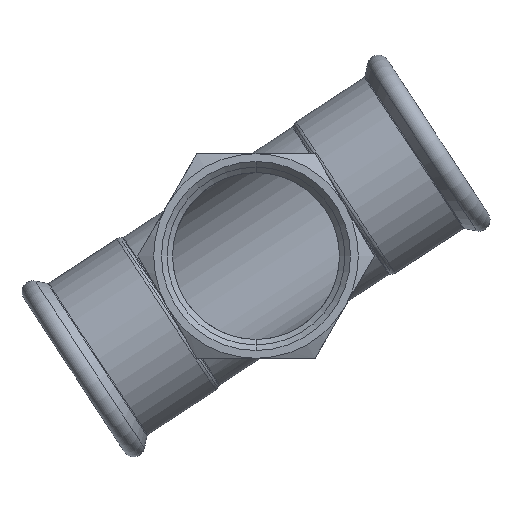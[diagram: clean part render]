
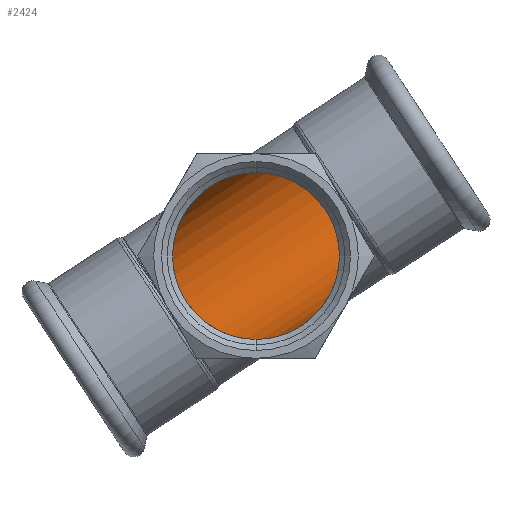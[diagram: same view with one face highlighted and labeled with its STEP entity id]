
A CAD part, front view. The second image highlights one B-rep face of the part: STEP entity #2424.
In plain terms, the highlighted cylindrical face has radius 26.5 mm (diameter 53 mm), a partial arc.
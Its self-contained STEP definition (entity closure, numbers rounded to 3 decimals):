
#50 = VERTEX_POINT ( 'NONE', #3164 ) ;
#75 = CARTESIAN_POINT ( 'NONE',  ( 0., 0., 26.5 ) ) ;
#148 = CIRCLE ( 'NONE', #431, 26.5 ) ;
#270 = DIRECTION ( 'NONE',  ( 0., 0., 1. ) ) ;
#283 = CARTESIAN_POINT ( 'NONE',  ( -32.06, 0., 0. ) ) ;
#286 = EDGE_CURVE ( 'NONE', #432, #870, #148, .T. ) ;
#363 = CARTESIAN_POINT ( 'NONE',  ( 27.146, 0., -26.5 ) ) ;
#399 = CARTESIAN_POINT ( 'NONE',  ( -32.06, 0., -26.5 ) ) ;
#431 = AXIS2_PLACEMENT_3D ( 'NONE', #283, #2703, #1082 ) ;
#432 = VERTEX_POINT ( 'NONE', #399 ) ;
#481 = LINE ( 'NONE', #3117, #887 ) ;
#535 = DIRECTION ( 'NONE',  ( -1., 0., 0. ) ) ;
#546 = EDGE_CURVE ( 'NONE', #50, #1648, #2518, .T. ) ;
#629 = ORIENTED_EDGE ( 'NONE', *, *, #2709, .F. ) ;
#632 = ORIENTED_EDGE ( 'NONE', *, *, #286, .T. ) ;
#667 = DIRECTION ( 'NONE',  ( 0., 0., 1. ) ) ;
#692 = AXIS2_PLACEMENT_3D ( 'NONE', #803, #1330, #270 ) ;
#803 = CARTESIAN_POINT ( 'NONE',  ( 32.06, 0., 0. ) ) ;
#870 = VERTEX_POINT ( 'NONE', #908 ) ;
#887 = VECTOR ( 'NONE', #3460, 1000. ) ;
#889 = EDGE_CURVE ( 'NONE', #1648, #432, #1301, .T. ) ;
#908 = CARTESIAN_POINT ( 'NONE',  ( -32.06, 0., 26.5 ) ) ;
#1001 = VECTOR ( 'NONE', #535, 1000. ) ;
#1082 = DIRECTION ( 'NONE',  ( 0., 0., 1. ) ) ;
#1206 = ORIENTED_EDGE ( 'NONE', *, *, #889, .T. ) ;
#1301 = LINE ( 'NONE', #363, #1472 ) ;
#1320 = ORIENTED_EDGE ( 'NONE', *, *, #1441, .F. ) ;
#1330 = DIRECTION ( 'NONE',  ( -1., 0., 0. ) ) ;
#1441 = EDGE_CURVE ( 'NONE', #1455, #870, #1884, .T. ) ;
#1455 = VERTEX_POINT ( 'NONE', #75 ) ;
#1472 = VECTOR ( 'NONE', #3030, 1000. ) ;
#1648 = VERTEX_POINT ( 'NONE', #2264 ) ;
#1748 = DIRECTION ( 'NONE',  ( -1., 0., 0. ) ) ;
#1773 = CARTESIAN_POINT ( 'NONE',  ( 27.146, 0., -26.5 ) ) ;
#1874 = ORIENTED_EDGE ( 'NONE', *, *, #546, .T. ) ;
#1884 = LINE ( 'NONE', #2179, #1001 ) ;
#2051 = VERTEX_POINT ( 'NONE', #2939 ) ;
#2159 = FACE_OUTER_BOUND ( 'NONE', #3413, .T. ) ;
#2179 = CARTESIAN_POINT ( 'NONE',  ( 27.146, 0., 26.5 ) ) ;
#2221 = AXIS2_PLACEMENT_3D ( 'NONE', #2280, #1748, #667 ) ;
#2264 = CARTESIAN_POINT ( 'NONE',  ( 0., 0., -26.5 ) ) ;
#2280 = CARTESIAN_POINT ( 'NONE',  ( 27.146, 0., 0. ) ) ;
#2391 = CIRCLE ( 'NONE', #692, 26.5 ) ;
#2424 = ADVANCED_FACE ( 'NONE', ( #2159 ), #2605, .F. ) ;
#2518 = LINE ( 'NONE', #1773, #3029 ) ;
#2605 = CYLINDRICAL_SURFACE ( 'NONE', #2221, 26.5 ) ;
#2703 = DIRECTION ( 'NONE',  ( -1., 0., 0. ) ) ;
#2709 = EDGE_CURVE ( 'NONE', #2051, #1455, #481, .T. ) ;
#2867 = DIRECTION ( 'NONE',  ( -1., 0., 0. ) ) ;
#2939 = CARTESIAN_POINT ( 'NONE',  ( 32.06, 0., 26.5 ) ) ;
#2941 = EDGE_CURVE ( 'NONE', #50, #2051, #2391, .T. ) ;
#3026 = ORIENTED_EDGE ( 'NONE', *, *, #2941, .F. ) ;
#3029 = VECTOR ( 'NONE', #2867, 1000. ) ;
#3030 = DIRECTION ( 'NONE',  ( -1., 0., 0. ) ) ;
#3117 = CARTESIAN_POINT ( 'NONE',  ( 27.146, 0., 26.5 ) ) ;
#3164 = CARTESIAN_POINT ( 'NONE',  ( 32.06, 0., -26.5 ) ) ;
#3413 = EDGE_LOOP ( 'NONE', ( #3026, #1874, #1206, #632, #1320, #629 ) ) ;
#3460 = DIRECTION ( 'NONE',  ( -1., 0., 0. ) ) ;
